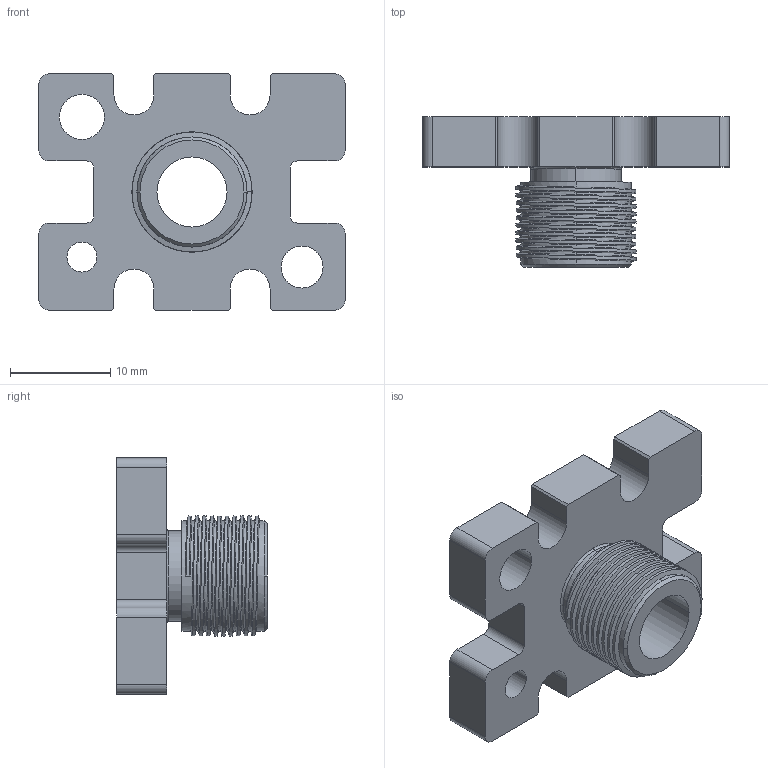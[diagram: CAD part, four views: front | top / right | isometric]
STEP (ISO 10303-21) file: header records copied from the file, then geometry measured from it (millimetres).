
FILE_DESCRIPTION (( 'STEP AP214' ), '1' );
FILE_NAME ('SMBM-16.STEP', '2019-11-06T08:01:25', ( '微软用户' ), ( '微软中国' ), 'SwSTEP 2.0', 'SolidWorks 2016', '' );
FILE_SCHEMA (( 'AUTOMOTIVE_DESIGN' ));
Length unit declared in the file: millimetre
Products named in the file (1): SMBM-16
Bounding box: 30.6 x 15 x 23.6 mm (x, y, z)
Volume: 3178.1 mm3; surface area: 2988.1 mm2
Topology: 1 solids, 1 shells, 91 faces, 259 edges, 172 vertices
Faces by surface type: cylinder 46, plane 38, bspline 5, cone 2
Entity records: 4450 total; most frequent: CARTESIAN_POINT 2122, ORIENTED_EDGE 518, DIRECTION 447, EDGE_CURVE 259, VERTEX_POINT 172, LINE 153, VECTOR 153, AXIS2_PLACEMENT_3D 147
